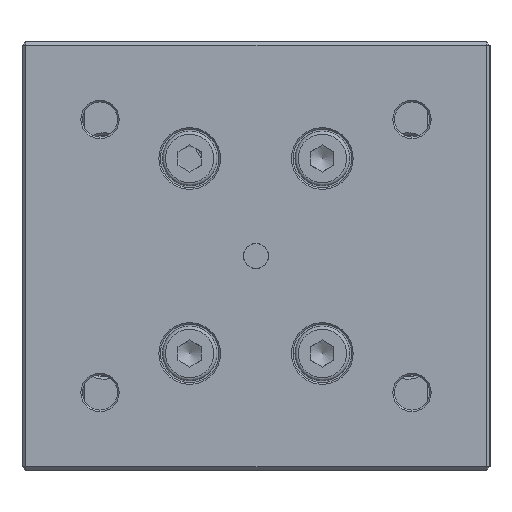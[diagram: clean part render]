
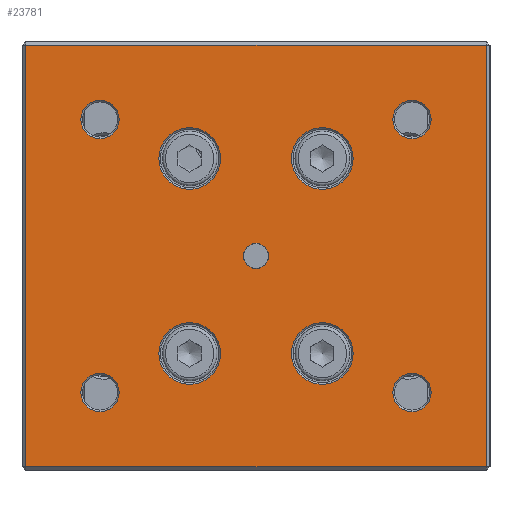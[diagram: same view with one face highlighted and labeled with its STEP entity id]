
A CAD part, front view. The second image highlights one B-rep face of the part: STEP entity #23781.
In plain terms, the highlighted planar face has unit normal (0, -1, 0).
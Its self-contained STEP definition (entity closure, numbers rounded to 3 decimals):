
#727=FACE_BOUND('',#3995,.T.);
#728=FACE_BOUND('',#3996,.T.);
#729=FACE_BOUND('',#3997,.T.);
#730=FACE_BOUND('',#3998,.T.);
#731=FACE_BOUND('',#3999,.T.);
#732=FACE_BOUND('',#4000,.T.);
#733=FACE_BOUND('',#4001,.T.);
#734=FACE_BOUND('',#4002,.T.);
#735=FACE_BOUND('',#4003,.T.);
#1508=PLANE('',#25448);
#2627=FACE_OUTER_BOUND('',#3994,.T.);
#3994=EDGE_LOOP('',(#18982,#18983,#18984,#18985));
#3995=EDGE_LOOP('',(#18986));
#3996=EDGE_LOOP('',(#18987));
#3997=EDGE_LOOP('',(#18988));
#3998=EDGE_LOOP('',(#18989));
#3999=EDGE_LOOP('',(#18990));
#4000=EDGE_LOOP('',(#18991));
#4001=EDGE_LOOP('',(#18992));
#4002=EDGE_LOOP('',(#18993));
#4003=EDGE_LOOP('',(#18994));
#4843=CIRCLE('',#25355,1.621);
#4854=CIRCLE('',#25372,3.95);
#4857=CIRCLE('',#25377,3.95);
#4866=CIRCLE('',#25392,3.95);
#4869=CIRCLE('',#25397,3.95);
#4881=CIRCLE('',#25417,2.45);
#4883=CIRCLE('',#25421,2.45);
#4895=CIRCLE('',#25442,2.45);
#4897=CIRCLE('',#25446,2.45);
#6356=LINE('',#37399,#8558);
#6357=LINE('',#37401,#8559);
#6358=LINE('',#37403,#8560);
#6359=LINE('',#37404,#8561);
#8558=VECTOR('',#29472,10.);
#8559=VECTOR('',#29473,10.);
#8560=VECTOR('',#29474,10.);
#8561=VECTOR('',#29475,10.);
#10787=VERTEX_POINT('',#37203);
#10798=VERTEX_POINT('',#37235);
#10801=VERTEX_POINT('',#37245);
#10810=VERTEX_POINT('',#37273);
#10813=VERTEX_POINT('',#37283);
#10825=VERTEX_POINT('',#37321);
#10827=VERTEX_POINT('',#37329);
#10843=VERTEX_POINT('',#37376);
#10845=VERTEX_POINT('',#37384);
#10850=VERTEX_POINT('',#37397);
#10851=VERTEX_POINT('',#37398);
#10852=VERTEX_POINT('',#37400);
#10853=VERTEX_POINT('',#37402);
#13606=EDGE_CURVE('',#10787,#10787,#4843,.T.);
#13622=EDGE_CURVE('',#10798,#10798,#4854,.T.);
#13627=EDGE_CURVE('',#10801,#10801,#4857,.T.);
#13640=EDGE_CURVE('',#10810,#10810,#4866,.T.);
#13645=EDGE_CURVE('',#10813,#10813,#4869,.T.);
#13663=EDGE_CURVE('',#10825,#10825,#4881,.T.);
#13667=EDGE_CURVE('',#10827,#10827,#4883,.T.);
#13689=EDGE_CURVE('',#10843,#10843,#4895,.T.);
#13693=EDGE_CURVE('',#10845,#10845,#4897,.T.);
#13698=EDGE_CURVE('',#10850,#10851,#6356,.T.);
#13699=EDGE_CURVE('',#10852,#10850,#6357,.T.);
#13700=EDGE_CURVE('',#10853,#10852,#6358,.T.);
#13701=EDGE_CURVE('',#10851,#10853,#6359,.T.);
#18982=ORIENTED_EDGE('',*,*,#13698,.F.);
#18983=ORIENTED_EDGE('',*,*,#13699,.F.);
#18984=ORIENTED_EDGE('',*,*,#13700,.F.);
#18985=ORIENTED_EDGE('',*,*,#13701,.F.);
#18986=ORIENTED_EDGE('',*,*,#13693,.F.);
#18987=ORIENTED_EDGE('',*,*,#13667,.F.);
#18988=ORIENTED_EDGE('',*,*,#13645,.F.);
#18989=ORIENTED_EDGE('',*,*,#13627,.F.);
#18990=ORIENTED_EDGE('',*,*,#13606,.T.);
#18991=ORIENTED_EDGE('',*,*,#13622,.F.);
#18992=ORIENTED_EDGE('',*,*,#13640,.F.);
#18993=ORIENTED_EDGE('',*,*,#13663,.F.);
#18994=ORIENTED_EDGE('',*,*,#13689,.F.);
#23781=ADVANCED_FACE('',(#2627,#727,#728,#729,#730,#731,#732,#733,#734,
#735),#1508,.T.);
#25355=AXIS2_PLACEMENT_3D('',#37204,#29247,#29248);
#25372=AXIS2_PLACEMENT_3D('',#37237,#29286,#29287);
#25377=AXIS2_PLACEMENT_3D('',#37247,#29298,#29299);
#25392=AXIS2_PLACEMENT_3D('',#37275,#29332,#29333);
#25397=AXIS2_PLACEMENT_3D('',#37285,#29344,#29345);
#25417=AXIS2_PLACEMENT_3D('',#37323,#29390,#29391);
#25421=AXIS2_PLACEMENT_3D('',#37331,#29400,#29401);
#25442=AXIS2_PLACEMENT_3D('',#37378,#29452,#29453);
#25446=AXIS2_PLACEMENT_3D('',#37386,#29462,#29463);
#25448=AXIS2_PLACEMENT_3D('',#37396,#29470,#29471);
#29247=DIRECTION('center_axis',(0.,1.,0.));
#29248=DIRECTION('ref_axis',(1.,0.,0.));
#29286=DIRECTION('center_axis',(0.,-1.,0.));
#29287=DIRECTION('ref_axis',(-1.,0.,0.));
#29298=DIRECTION('center_axis',(0.,-1.,0.));
#29299=DIRECTION('ref_axis',(-1.,0.,0.));
#29332=DIRECTION('center_axis',(0.,-1.,0.));
#29333=DIRECTION('ref_axis',(-1.,0.,0.));
#29344=DIRECTION('center_axis',(0.,-1.,0.));
#29345=DIRECTION('ref_axis',(-1.,0.,0.));
#29390=DIRECTION('center_axis',(0.,-1.,0.));
#29391=DIRECTION('ref_axis',(1.,0.,0.));
#29400=DIRECTION('center_axis',(0.,-1.,0.));
#29401=DIRECTION('ref_axis',(1.,0.,0.));
#29452=DIRECTION('center_axis',(0.,-1.,0.));
#29453=DIRECTION('ref_axis',(1.,0.,0.));
#29462=DIRECTION('center_axis',(0.,-1.,0.));
#29463=DIRECTION('ref_axis',(1.,0.,0.));
#29470=DIRECTION('center_axis',(0.,-1.,0.));
#29471=DIRECTION('ref_axis',(1.,0.,0.));
#29472=DIRECTION('',(-1.,0.,0.));
#29473=DIRECTION('',(0.,0.,-1.));
#29474=DIRECTION('',(1.,0.,0.));
#29475=DIRECTION('',(0.,0.,1.));
#37203=CARTESIAN_POINT('',(3.765,-24.507,-63.378));
#37204=CARTESIAN_POINT('Origin',(5.386,-24.507,-63.378));
#37235=CARTESIAN_POINT('',(17.836,-24.507,-75.878));
#37237=CARTESIAN_POINT('Origin',(13.886,-24.507,-75.878));
#37245=CARTESIAN_POINT('',(0.836,-24.507,-75.878));
#37247=CARTESIAN_POINT('Origin',(-3.114,-24.507,-75.878));
#37273=CARTESIAN_POINT('',(17.836,-24.507,-50.878));
#37275=CARTESIAN_POINT('Origin',(13.886,-24.507,-50.878));
#37283=CARTESIAN_POINT('',(0.836,-24.507,-50.878));
#37285=CARTESIAN_POINT('Origin',(-3.114,-24.507,-50.878));
#37321=CARTESIAN_POINT('',(22.936,-24.507,-80.878));
#37323=CARTESIAN_POINT('Origin',(25.386,-24.507,-80.878));
#37329=CARTESIAN_POINT('',(-17.064,-24.507,-80.878));
#37331=CARTESIAN_POINT('Origin',(-14.614,-24.507,-80.878));
#37376=CARTESIAN_POINT('',(22.936,-24.507,-45.878));
#37378=CARTESIAN_POINT('Origin',(25.386,-24.507,-45.878));
#37384=CARTESIAN_POINT('',(-17.064,-24.507,-45.878));
#37386=CARTESIAN_POINT('Origin',(-14.614,-24.507,-45.878));
#37396=CARTESIAN_POINT('Origin',(-24.614,-24.507,-90.878));
#37397=CARTESIAN_POINT('',(34.886,-24.507,-90.378));
#37398=CARTESIAN_POINT('',(-24.114,-24.507,-90.378));
#37399=CARTESIAN_POINT('',(-9.614,-24.507,-90.378));
#37400=CARTESIAN_POINT('',(34.886,-24.507,-36.378));
#37401=CARTESIAN_POINT('',(34.886,-24.507,-90.878));
#37402=CARTESIAN_POINT('',(-24.114,-24.507,-36.378));
#37403=CARTESIAN_POINT('',(-9.614,-24.507,-36.378));
#37404=CARTESIAN_POINT('',(-24.114,-24.507,-90.878));
